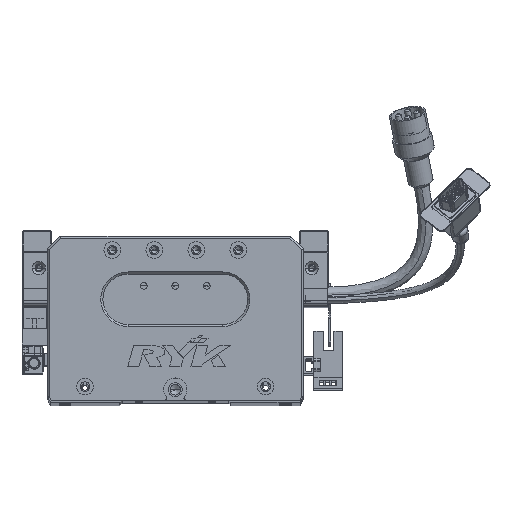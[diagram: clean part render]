
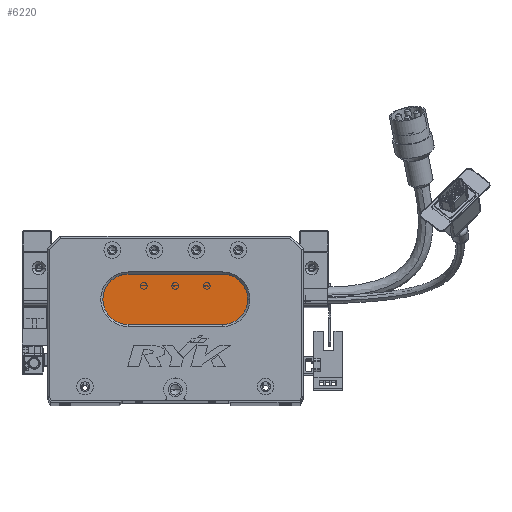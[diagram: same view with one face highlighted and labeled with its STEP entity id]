
A CAD part, top view. The second image highlights one B-rep face of the part: STEP entity #6220.
In plain terms, the highlighted planar face has unit normal (0, 0, 1) as drawn and (0, 0, -1) by its records, which use the part's own axes.
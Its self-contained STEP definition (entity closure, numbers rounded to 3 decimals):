
#3487 = CARTESIAN_POINT ( 'NONE',  ( 83.5, 36., 13. ) ) ;
#5193 = EDGE_CURVE ( 'NONE', #54952, #61532, #69904, .T. ) ;
#5572 = CARTESIAN_POINT ( 'NONE',  ( 83.5, 48., 13. ) ) ;
#6220 = ADVANCED_FACE ( 'NONE', ( #21678 ), #35976, .T. ) ;
#7065 = DIRECTION ( 'NONE',  ( 0., 0., -1. ) ) ;
#8403 = ORIENTED_EDGE ( 'NONE', *, *, #68989, .T. ) ;
#9209 = DIRECTION ( 'NONE',  ( -1., 0., 0. ) ) ;
#11789 = CIRCLE ( 'NONE', #78440, 12. ) ;
#12125 = DIRECTION ( 'NONE',  ( -1., 0., 0. ) ) ;
#14299 = EDGE_CURVE ( 'NONE', #54589, #66994, #46211, .T. ) ;
#15838 = LINE ( 'NONE', #68932, #33586 ) ;
#21678 = FACE_OUTER_BOUND ( 'NONE', #72121, .T. ) ;
#22783 = CARTESIAN_POINT ( 'NONE',  ( 83.5, 48., 13. ) ) ;
#23053 = DIRECTION ( 'NONE',  ( -1., 0., 0. ) ) ;
#25078 = EDGE_CURVE ( 'NONE', #61532, #46096, #15838, .T. ) ;
#25341 = ORIENTED_EDGE ( 'NONE', *, *, #36951, .T. ) ;
#26112 = CARTESIAN_POINT ( 'NONE',  ( 38.5, 36., 13. ) ) ;
#28461 = AXIS2_PLACEMENT_3D ( 'NONE', #22783, #54975, #23053 ) ;
#29388 = AXIS2_PLACEMENT_3D ( 'NONE', #66781, #48030, #72292 ) ;
#29496 = VECTOR ( 'NONE', #9209, 1000. ) ;
#31694 = CIRCLE ( 'NONE', #64816, 12. ) ;
#32865 = CARTESIAN_POINT ( 'NONE',  ( 38.5, 48., 13. ) ) ;
#33586 = VECTOR ( 'NONE', #70002, 1000. ) ;
#35611 = ORIENTED_EDGE ( 'NONE', *, *, #25078, .T. ) ;
#35976 = PLANE ( 'NONE',  #28461 ) ;
#36951 = EDGE_CURVE ( 'NONE', #46096, #54589, #11789, .T. ) ;
#45514 = DIRECTION ( 'NONE',  ( -1., 0., 0. ) ) ;
#46096 = VERTEX_POINT ( 'NONE', #54035 ) ;
#46123 = CARTESIAN_POINT ( 'NONE',  ( 38.5, 60., 13. ) ) ;
#46211 = LINE ( 'NONE', #71129, #29496 ) ;
#48030 = DIRECTION ( 'NONE',  ( 0., 0., -1. ) ) ;
#54035 = CARTESIAN_POINT ( 'NONE',  ( 83.5, 60., 13. ) ) ;
#54589 = VERTEX_POINT ( 'NONE', #3487 ) ;
#54952 = VERTEX_POINT ( 'NONE', #67431 ) ;
#54975 = DIRECTION ( 'NONE',  ( 0., 0., -1. ) ) ;
#61532 = VERTEX_POINT ( 'NONE', #46123 ) ;
#64816 = AXIS2_PLACEMENT_3D ( 'NONE', #32865, #7065, #45514 ) ;
#66781 = CARTESIAN_POINT ( 'NONE',  ( 38.5, 48., 13. ) ) ;
#66994 = VERTEX_POINT ( 'NONE', #26112 ) ;
#67431 = CARTESIAN_POINT ( 'NONE',  ( 26.5, 48., 13. ) ) ;
#68932 = CARTESIAN_POINT ( 'NONE',  ( 83.5, 60., 13. ) ) ;
#68989 = EDGE_CURVE ( 'NONE', #66994, #54952, #31694, .T. ) ;
#69904 = CIRCLE ( 'NONE', #29388, 12. ) ;
#70002 = DIRECTION ( 'NONE',  ( 1., 0., 0. ) ) ;
#71129 = CARTESIAN_POINT ( 'NONE',  ( 83.5, 36., 13. ) ) ;
#71875 = ORIENTED_EDGE ( 'NONE', *, *, #5193, .T. ) ;
#72121 = EDGE_LOOP ( 'NONE', ( #25341, #73714, #8403, #71875, #35611 ) ) ;
#72292 = DIRECTION ( 'NONE',  ( -1., 0., 0. ) ) ;
#73714 = ORIENTED_EDGE ( 'NONE', *, *, #14299, .T. ) ;
#78440 = AXIS2_PLACEMENT_3D ( 'NONE', #5572, #80392, #12125 ) ;
#80392 = DIRECTION ( 'NONE',  ( 0., 0., -1. ) ) ;
